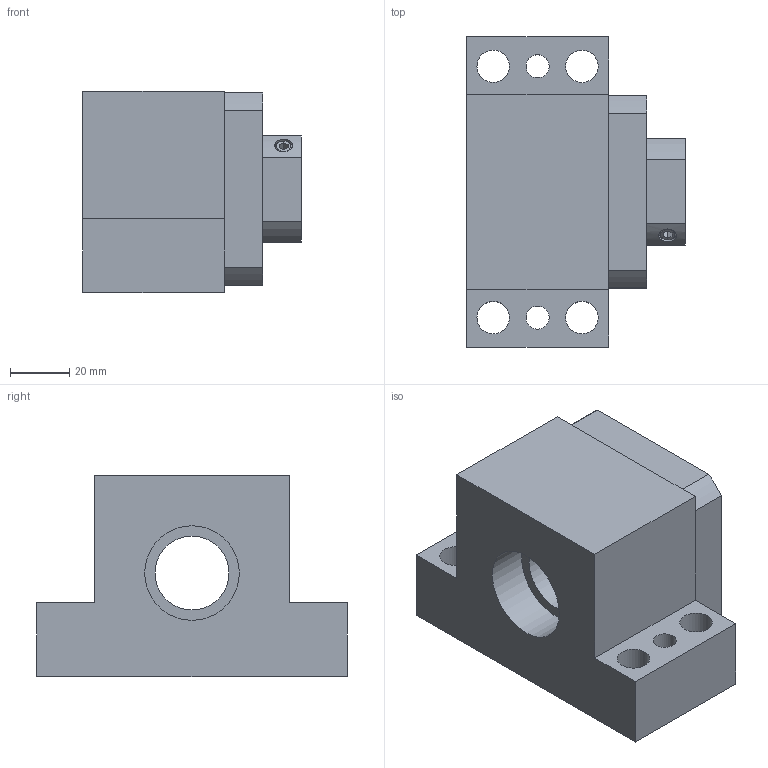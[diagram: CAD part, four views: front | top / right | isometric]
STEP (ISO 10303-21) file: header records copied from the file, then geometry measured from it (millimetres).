
FILE_DESCRIPTION((''),'2;1');
FILE_NAME('D:\製品 (図面)\カタログ用3D\ネジ関連\STEP形式\SUH\SUH25.stp','2010-06-02T14:51:22',('Tsuchiya'),(''),'Autodesk Inventor 10','Autodesk Inventor 10','');
FILE_SCHEMA(('AUTOMOTIVE_DESIGN { 1 0 10303 214 1 1 1 1 }'));
Length unit declared in the file: millimetre
Products named in the file (1): SUH25
Bounding box: 74 x 105 x 68 mm (x, y, z)
Volume: 275587.5 mm3; surface area: 46248 mm2
Topology: 1 solids, 1 shells, 101 faces, 239 edges, 160 vertices
Faces by surface type: plane 64, cylinder 18, bspline 14, torus 4, cone 1
Full cylindrical faces by diameter (mm): 6 x1, 13 x4, 25 x1, 32 x2, 34 x1, 45 x1
Entity records: 2973 total; most frequent: CARTESIAN_POINT 712, DIRECTION 442, ORIENTED_EDGE 416, EDGE_CURVE 208, EDGE_LOOP 160, VERTEX_POINT 154, AXIS2_PLACEMENT_3D 148, VECTOR 146
